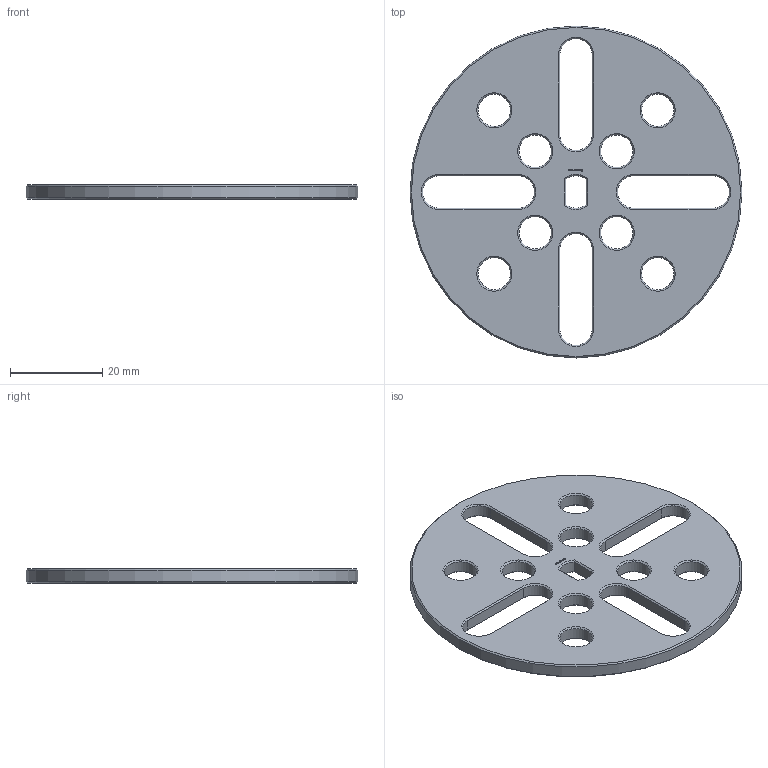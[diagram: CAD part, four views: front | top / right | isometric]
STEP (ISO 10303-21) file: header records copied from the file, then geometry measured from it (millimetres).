
FILE_DESCRIPTION(/* description */ (''),/* implementation_level */ '2;1');
FILE_NAME(/* name */ '/Users/paulokiefe/Desktop/STEMFIE/Fasteners/Washers/Fixed/Washer WSR FXD BU0.25x5.75 - SPN-WSR-0020 v1.step',/* time_stamp */ '2020-09-27T23:18:55+02:00',/* author */ (''),/* organization */ (''),/* preprocessor_version */ 'ST-DEVELOPER v18.1',/* originating_system */ 'Autodesk Translation Framework v9.3.0.1241',/* authorisation */ '');
FILE_SCHEMA (('AUTOMOTIVE_DESIGN { 1 0 10303 214 3 1 1 }'));
Length unit declared in the file: millimetre
Products named in the file (1): Washer WSR FXD BU0.25x5.75 - SPN-WSR-0020
Bounding box: 71.88 x 71.88 x 3.12 mm (x, y, z)
Volume: 9583.8 mm3; surface area: 7971 mm2
Topology: 1 solids, 1 shells, 333 faces, 899 edges, 580 vertices
Faces by surface type: plane 276, cone 38, cylinder 19
Full cylindrical faces by diameter (mm): 7 x8, 71.875 x1
Entity records: 10318 total; most frequent: CARTESIAN_POINT 1837, ORIENTED_EDGE 1798, DIRECTION 1635, EDGE_CURVE 899, LINE 815, VECTOR 815, VERTEX_POINT 580, AXIS2_PLACEMENT_3D 410
